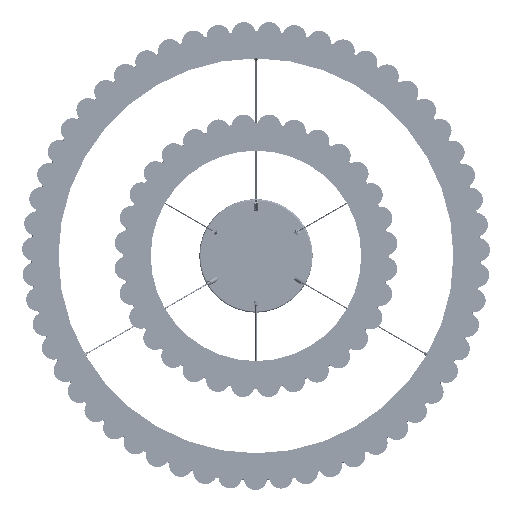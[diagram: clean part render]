
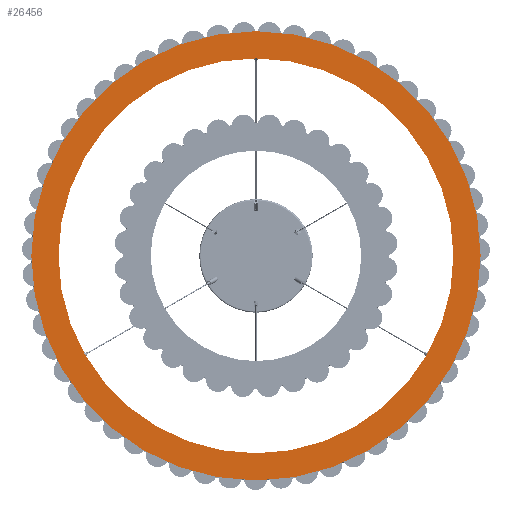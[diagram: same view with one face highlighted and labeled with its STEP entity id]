
A CAD part, front view. The second image highlights one B-rep face of the part: STEP entity #26456.
In plain terms, the highlighted planar face has unit normal (0, -1, 0).
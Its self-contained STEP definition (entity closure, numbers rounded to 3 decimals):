
#1290 = EDGE_CURVE ( 'NONE', #78220, #4323, #93619, .T. ) ;
#4323 = VERTEX_POINT ( 'NONE', #78577 ) ;
#7644 = EDGE_LOOP ( 'NONE', ( #40747, #77676 ) ) ;
#10477 = DIRECTION ( 'NONE',  ( 0., 0., 1. ) ) ;
#13585 = CARTESIAN_POINT ( 'NONE',  ( 0., 0., 417.5 ) ) ;
#14249 = EDGE_CURVE ( 'NONE', #32128, #68429, #48585, .T. ) ;
#17687 = AXIS2_PLACEMENT_3D ( 'NONE', #36182, #35098, #10477 ) ;
#19459 = ORIENTED_EDGE ( 'NONE', *, *, #1290, .F. ) ;
#22115 = CARTESIAN_POINT ( 'NONE',  ( 0., 0., 0. ) ) ;
#26456 = ADVANCED_FACE ( 'NONE', ( #92601, #94224 ), #77245, .F. ) ;
#30855 = DIRECTION ( 'NONE',  ( 0., 0., 1. ) ) ;
#32128 = VERTEX_POINT ( 'NONE', #103799 ) ;
#34338 = DIRECTION ( 'NONE',  ( 0., 1., 0. ) ) ;
#35098 = DIRECTION ( 'NONE',  ( 0., 1., 0. ) ) ;
#36182 = CARTESIAN_POINT ( 'NONE',  ( 0., 0., 0. ) ) ;
#40747 = ORIENTED_EDGE ( 'NONE', *, *, #14249, .T. ) ;
#40955 = DIRECTION ( 'NONE',  ( 0., 0., 1. ) ) ;
#43870 = CARTESIAN_POINT ( 'NONE',  ( 0., 0., 475. ) ) ;
#44658 = AXIS2_PLACEMENT_3D ( 'NONE', #60069, #34338, #40955 ) ;
#46773 = CARTESIAN_POINT ( 'NONE',  ( 0., 0., 0. ) ) ;
#48585 = CIRCLE ( 'NONE', #90559, 417.5 ) ;
#49379 = EDGE_LOOP ( 'NONE', ( #67622, #19459 ) ) ;
#53886 = DIRECTION ( 'NONE',  ( 0., 0., 1. ) ) ;
#60069 = CARTESIAN_POINT ( 'NONE',  ( 0., 0., 0. ) ) ;
#62106 = DIRECTION ( 'NONE',  ( 0., 1., 0. ) ) ;
#64802 = DIRECTION ( 'NONE',  ( 0., 1., 0. ) ) ;
#66165 = DIRECTION ( 'NONE',  ( 0., 0., 1. ) ) ;
#67622 = ORIENTED_EDGE ( 'NONE', *, *, #74298, .F. ) ;
#67727 = AXIS2_PLACEMENT_3D ( 'NONE', #74357, #107758, #66165 ) ;
#68429 = VERTEX_POINT ( 'NONE', #13585 ) ;
#71561 = EDGE_CURVE ( 'NONE', #68429, #32128, #91853, .T. ) ;
#74298 = EDGE_CURVE ( 'NONE', #4323, #78220, #97419, .T. ) ;
#74357 = CARTESIAN_POINT ( 'NONE',  ( 0., 0., 0. ) ) ;
#77245 = PLANE ( 'NONE',  #17687 ) ;
#77676 = ORIENTED_EDGE ( 'NONE', *, *, #71561, .T. ) ;
#78220 = VERTEX_POINT ( 'NONE', #43870 ) ;
#78577 = CARTESIAN_POINT ( 'NONE',  ( 0., 0., -475. ) ) ;
#90160 = AXIS2_PLACEMENT_3D ( 'NONE', #46773, #62106, #53886 ) ;
#90559 = AXIS2_PLACEMENT_3D ( 'NONE', #22115, #64802, #30855 ) ;
#91853 = CIRCLE ( 'NONE', #44658, 417.5 ) ;
#92601 = FACE_OUTER_BOUND ( 'NONE', #49379, .T. ) ;
#93619 = CIRCLE ( 'NONE', #90160, 475. ) ;
#94224 = FACE_BOUND ( 'NONE', #7644, .T. ) ;
#97419 = CIRCLE ( 'NONE', #67727, 475. ) ;
#103799 = CARTESIAN_POINT ( 'NONE',  ( 0., 0., -417.5 ) ) ;
#107758 = DIRECTION ( 'NONE',  ( 0., 1., 0. ) ) ;
